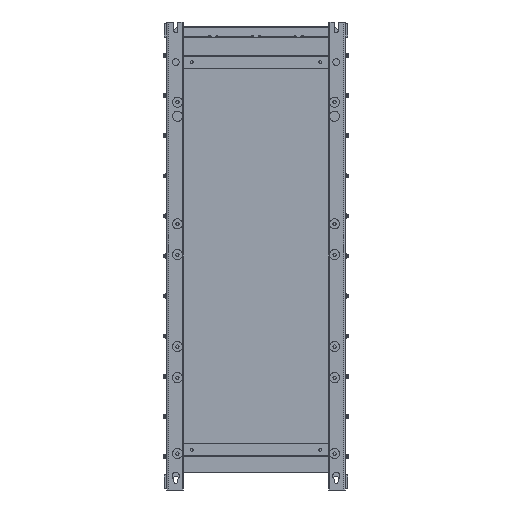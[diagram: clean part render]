
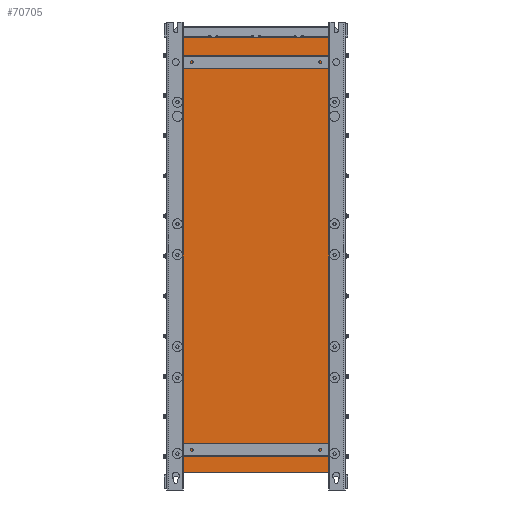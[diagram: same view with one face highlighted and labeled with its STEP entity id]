
A CAD part, front view. The second image highlights one B-rep face of the part: STEP entity #70705.
In plain terms, the highlighted planar face has unit normal (0, -1, 0).
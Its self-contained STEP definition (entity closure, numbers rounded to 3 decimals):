
#3218=LINE('',#105179,#8684);
#3219=LINE('',#105181,#8685);
#3220=LINE('',#105183,#8686);
#3221=LINE('',#105184,#8687);
#8684=VECTOR('',#85302,10.);
#8685=VECTOR('',#85303,10.);
#8686=VECTOR('',#85304,10.);
#8687=VECTOR('',#85305,10.);
#14200=PLANE('',#75654);
#16302=FACE_BOUND('',#22646,.T.);
#16303=FACE_BOUND('',#22647,.T.);
#16304=FACE_BOUND('',#22648,.T.);
#16305=FACE_BOUND('',#22649,.T.);
#16306=FACE_BOUND('',#22650,.T.);
#16307=FACE_BOUND('',#22651,.T.);
#16308=FACE_BOUND('',#22652,.T.);
#16309=FACE_BOUND('',#22653,.T.);
#16310=FACE_BOUND('',#22654,.T.);
#16311=FACE_BOUND('',#22655,.T.);
#16312=FACE_BOUND('',#22656,.T.);
#16313=FACE_BOUND('',#22657,.T.);
#16314=FACE_BOUND('',#22658,.T.);
#16315=FACE_BOUND('',#22659,.T.);
#16316=FACE_BOUND('',#22660,.T.);
#16317=FACE_BOUND('',#22661,.T.);
#18111=FACE_OUTER_BOUND('',#22645,.T.);
#22645=EDGE_LOOP('',(#49366,#49367,#49368,#49369));
#22646=EDGE_LOOP('',(#49370));
#22647=EDGE_LOOP('',(#49371));
#22648=EDGE_LOOP('',(#49372));
#22649=EDGE_LOOP('',(#49373));
#22650=EDGE_LOOP('',(#49374));
#22651=EDGE_LOOP('',(#49375));
#22652=EDGE_LOOP('',(#49376));
#22653=EDGE_LOOP('',(#49377));
#22654=EDGE_LOOP('',(#49378));
#22655=EDGE_LOOP('',(#49379));
#22656=EDGE_LOOP('',(#49380));
#22657=EDGE_LOOP('',(#49381));
#22658=EDGE_LOOP('',(#49382));
#22659=EDGE_LOOP('',(#49383));
#22660=EDGE_LOOP('',(#49384));
#22661=EDGE_LOOP('',(#49385));
#26892=CIRCLE('',#75655,4.);
#26893=CIRCLE('',#75656,4.);
#26894=CIRCLE('',#75657,2.5);
#26895=CIRCLE('',#75658,2.5);
#26896=CIRCLE('',#75659,4.);
#26897=CIRCLE('',#75660,4.);
#26898=CIRCLE('',#75661,4.);
#26899=CIRCLE('',#75662,4.);
#26900=CIRCLE('',#75663,4.);
#26901=CIRCLE('',#75664,4.);
#26902=CIRCLE('',#75665,4.);
#26903=CIRCLE('',#75666,4.);
#26904=CIRCLE('',#75667,4.);
#26905=CIRCLE('',#75668,4.);
#26906=CIRCLE('',#75669,4.);
#26907=CIRCLE('',#75670,4.);
#30361=VERTEX_POINT('',#105177);
#30362=VERTEX_POINT('',#105178);
#30363=VERTEX_POINT('',#105180);
#30364=VERTEX_POINT('',#105182);
#30365=VERTEX_POINT('',#105185);
#30366=VERTEX_POINT('',#105187);
#30367=VERTEX_POINT('',#105189);
#30368=VERTEX_POINT('',#105191);
#30369=VERTEX_POINT('',#105193);
#30370=VERTEX_POINT('',#105195);
#30371=VERTEX_POINT('',#105197);
#30372=VERTEX_POINT('',#105199);
#30373=VERTEX_POINT('',#105201);
#30374=VERTEX_POINT('',#105203);
#30375=VERTEX_POINT('',#105205);
#30376=VERTEX_POINT('',#105207);
#30377=VERTEX_POINT('',#105209);
#30378=VERTEX_POINT('',#105211);
#30379=VERTEX_POINT('',#105213);
#30380=VERTEX_POINT('',#105215);
#37568=EDGE_CURVE('',#30361,#30362,#3218,.T.);
#37569=EDGE_CURVE('',#30363,#30361,#3219,.T.);
#37570=EDGE_CURVE('',#30363,#30364,#3220,.T.);
#37571=EDGE_CURVE('',#30362,#30364,#3221,.T.);
#37572=EDGE_CURVE('',#30365,#30365,#26892,.T.);
#37573=EDGE_CURVE('',#30366,#30366,#26893,.T.);
#37574=EDGE_CURVE('',#30367,#30367,#26894,.T.);
#37575=EDGE_CURVE('',#30368,#30368,#26895,.T.);
#37576=EDGE_CURVE('',#30369,#30369,#26896,.T.);
#37577=EDGE_CURVE('',#30370,#30370,#26897,.T.);
#37578=EDGE_CURVE('',#30371,#30371,#26898,.T.);
#37579=EDGE_CURVE('',#30372,#30372,#26899,.T.);
#37580=EDGE_CURVE('',#30373,#30373,#26900,.T.);
#37581=EDGE_CURVE('',#30374,#30374,#26901,.T.);
#37582=EDGE_CURVE('',#30375,#30375,#26902,.T.);
#37583=EDGE_CURVE('',#30376,#30376,#26903,.T.);
#37584=EDGE_CURVE('',#30377,#30377,#26904,.T.);
#37585=EDGE_CURVE('',#30378,#30378,#26905,.T.);
#37586=EDGE_CURVE('',#30379,#30379,#26906,.T.);
#37587=EDGE_CURVE('',#30380,#30380,#26907,.T.);
#49366=ORIENTED_EDGE('',*,*,#37568,.F.);
#49367=ORIENTED_EDGE('',*,*,#37569,.F.);
#49368=ORIENTED_EDGE('',*,*,#37570,.T.);
#49369=ORIENTED_EDGE('',*,*,#37571,.F.);
#49370=ORIENTED_EDGE('',*,*,#37572,.F.);
#49371=ORIENTED_EDGE('',*,*,#37573,.F.);
#49372=ORIENTED_EDGE('',*,*,#37574,.F.);
#49373=ORIENTED_EDGE('',*,*,#37575,.F.);
#49374=ORIENTED_EDGE('',*,*,#37576,.F.);
#49375=ORIENTED_EDGE('',*,*,#37577,.F.);
#49376=ORIENTED_EDGE('',*,*,#37578,.F.);
#49377=ORIENTED_EDGE('',*,*,#37579,.F.);
#49378=ORIENTED_EDGE('',*,*,#37580,.F.);
#49379=ORIENTED_EDGE('',*,*,#37581,.F.);
#49380=ORIENTED_EDGE('',*,*,#37582,.F.);
#49381=ORIENTED_EDGE('',*,*,#37583,.F.);
#49382=ORIENTED_EDGE('',*,*,#37584,.F.);
#49383=ORIENTED_EDGE('',*,*,#37585,.F.);
#49384=ORIENTED_EDGE('',*,*,#37586,.F.);
#49385=ORIENTED_EDGE('',*,*,#37587,.F.);
#70705=ADVANCED_FACE('',(#18111,#16302,#16303,#16304,#16305,#16306,#16307,
#16308,#16309,#16310,#16311,#16312,#16313,#16314,#16315,#16316,#16317),
#14200,.T.);
#75654=AXIS2_PLACEMENT_3D('',#105176,#85300,#85301);
#75655=AXIS2_PLACEMENT_3D('',#105186,#85306,#85307);
#75656=AXIS2_PLACEMENT_3D('',#105188,#85308,#85309);
#75657=AXIS2_PLACEMENT_3D('',#105190,#85310,#85311);
#75658=AXIS2_PLACEMENT_3D('',#105192,#85312,#85313);
#75659=AXIS2_PLACEMENT_3D('',#105194,#85314,#85315);
#75660=AXIS2_PLACEMENT_3D('',#105196,#85316,#85317);
#75661=AXIS2_PLACEMENT_3D('',#105198,#85318,#85319);
#75662=AXIS2_PLACEMENT_3D('',#105200,#85320,#85321);
#75663=AXIS2_PLACEMENT_3D('',#105202,#85322,#85323);
#75664=AXIS2_PLACEMENT_3D('',#105204,#85324,#85325);
#75665=AXIS2_PLACEMENT_3D('',#105206,#85326,#85327);
#75666=AXIS2_PLACEMENT_3D('',#105208,#85328,#85329);
#75667=AXIS2_PLACEMENT_3D('',#105210,#85330,#85331);
#75668=AXIS2_PLACEMENT_3D('',#105212,#85332,#85333);
#75669=AXIS2_PLACEMENT_3D('',#105214,#85334,#85335);
#75670=AXIS2_PLACEMENT_3D('',#105216,#85336,#85337);
#85300=DIRECTION('center_axis',(0.,-1.,0.));
#85301=DIRECTION('ref_axis',(0.,0.,
-1.));
#85302=DIRECTION('',(-1.,0.,0.));
#85303=DIRECTION('',(0.,0.,-1.));
#85304=DIRECTION('',(-1.,0.,0.));
#85305=DIRECTION('',(0.,0.,1.));
#85306=DIRECTION('center_axis',(0.,-1.,0.));
#85307=DIRECTION('ref_axis',(0.,0.,
1.));
#85308=DIRECTION('center_axis',(0.,-1.,0.));
#85309=DIRECTION('ref_axis',(0.,0.,
1.));
#85310=DIRECTION('center_axis',(0.,-1.,0.));
#85311=DIRECTION('ref_axis',(0.,0.,
1.));
#85312=DIRECTION('center_axis',(0.,-1.,0.));
#85313=DIRECTION('ref_axis',(0.,0.,
1.));
#85314=DIRECTION('center_axis',(0.,-1.,0.));
#85315=DIRECTION('ref_axis',(0.,0.,
1.));
#85316=DIRECTION('center_axis',(0.,-1.,0.));
#85317=DIRECTION('ref_axis',(0.,0.,
1.));
#85318=DIRECTION('center_axis',(0.,-1.,0.));
#85319=DIRECTION('ref_axis',(0.,0.,
1.));
#85320=DIRECTION('center_axis',(0.,-1.,0.));
#85321=DIRECTION('ref_axis',(0.,0.,
1.));
#85322=DIRECTION('center_axis',(0.,-1.,0.));
#85323=DIRECTION('ref_axis',(0.,0.,
1.));
#85324=DIRECTION('center_axis',(0.,-1.,0.));
#85325=DIRECTION('ref_axis',(0.,0.,
1.));
#85326=DIRECTION('center_axis',(0.,-1.,0.));
#85327=DIRECTION('ref_axis',(0.,0.,
1.));
#85328=DIRECTION('center_axis',(0.,-1.,0.));
#85329=DIRECTION('ref_axis',(0.,0.,
1.));
#85330=DIRECTION('center_axis',(0.,-1.,0.));
#85331=DIRECTION('ref_axis',(0.,0.,
1.));
#85332=DIRECTION('center_axis',(0.,-1.,0.));
#85333=DIRECTION('ref_axis',(0.,0.,
1.));
#85334=DIRECTION('center_axis',(0.,-1.,0.));
#85335=DIRECTION('ref_axis',(0.,0.,
1.));
#85336=DIRECTION('center_axis',(0.,-1.,0.));
#85337=DIRECTION('ref_axis',(0.,0.,
1.));
#105176=CARTESIAN_POINT('Origin',(0.,0.045,
3.5));
#105177=CARTESIAN_POINT('',(269.,0.045,-1296.5));
#105178=CARTESIAN_POINT('',(-269.,0.045,-1296.5));
#105179=CARTESIAN_POINT('',(0.,0.045,-1296.5));
#105180=CARTESIAN_POINT('',(269.,0.045,3.5));
#105181=CARTESIAN_POINT('',(269.,0.045,-1296.5));
#105182=CARTESIAN_POINT('',(-269.,0.045,3.5));
#105183=CARTESIAN_POINT('',(0.,0.045,3.5));
#105184=CARTESIAN_POINT('',(-269.,0.045,-1296.5));
#105185=CARTESIAN_POINT('',(235.,0.045,-236.));
#105186=CARTESIAN_POINT('Origin',(235.,0.045,-232.));
#105187=CARTESIAN_POINT('',(-235.,0.045,-236.));
#105188=CARTESIAN_POINT('Origin',(-235.,0.045,-232.));
#105189=CARTESIAN_POINT('',(240.,0.045,-72.5));
#105190=CARTESIAN_POINT('Origin',(240.,0.045,-70.));
#105191=CARTESIAN_POINT('',(-240.,0.045,-72.5));
#105192=CARTESIAN_POINT('Origin',(-240.,0.045,-70.));
#105193=CARTESIAN_POINT('',(235.,0.045,-194.));
#105194=CARTESIAN_POINT('Origin',(235.,0.045,-190.));
#105195=CARTESIAN_POINT('',(235.,0.045,-558.));
#105196=CARTESIAN_POINT('Origin',(235.,0.045,-554.));
#105197=CARTESIAN_POINT('',(235.,0.045,-650.));
#105198=CARTESIAN_POINT('Origin',(235.,0.045,-646.));
#105199=CARTESIAN_POINT('',(235.,0.045,-925.));
#105200=CARTESIAN_POINT('Origin',(235.,0.045,-921.));
#105201=CARTESIAN_POINT('',(235.,0.045,-1245.));
#105202=CARTESIAN_POINT('Origin',(235.,0.045,-1241.));
#105203=CARTESIAN_POINT('',(235.,0.045,-1018.));
#105204=CARTESIAN_POINT('Origin',(235.,0.045,-1014.));
#105205=CARTESIAN_POINT('',(-235.,0.045,-1018.));
#105206=CARTESIAN_POINT('Origin',(-235.,0.045,-1014.));
#105207=CARTESIAN_POINT('',(-235.,0.045,-1245.));
#105208=CARTESIAN_POINT('Origin',(-235.,0.045,-1241.));
#105209=CARTESIAN_POINT('',(-235.,0.045,-925.));
#105210=CARTESIAN_POINT('Origin',(-235.,0.045,-921.));
#105211=CARTESIAN_POINT('',(-235.,0.045,-650.));
#105212=CARTESIAN_POINT('Origin',(-235.,0.045,-646.));
#105213=CARTESIAN_POINT('',(-235.,0.045,-558.));
#105214=CARTESIAN_POINT('Origin',(-235.,0.045,-554.));
#105215=CARTESIAN_POINT('',(-235.,0.045,-194.));
#105216=CARTESIAN_POINT('Origin',(-235.,0.045,-190.));
